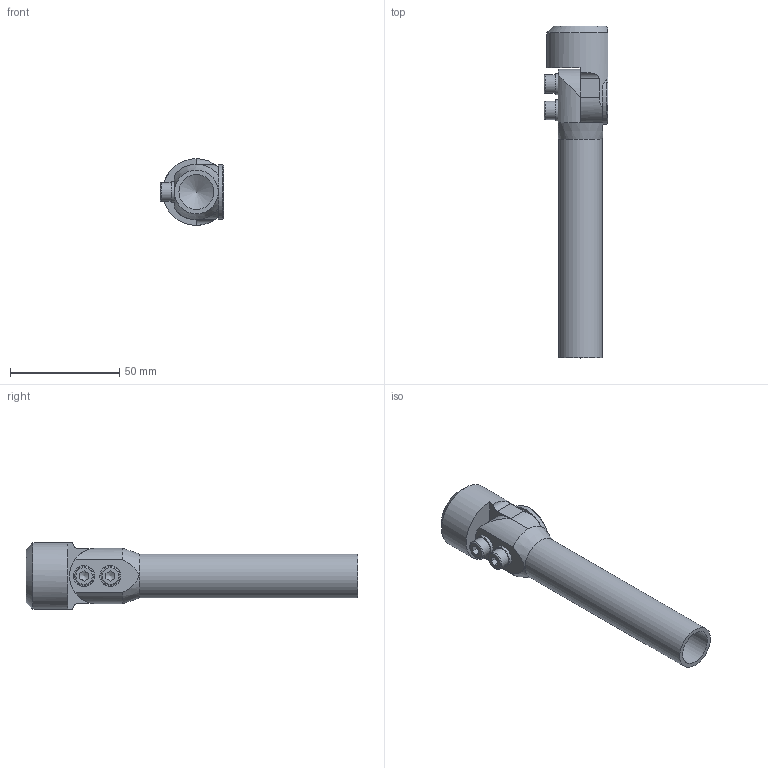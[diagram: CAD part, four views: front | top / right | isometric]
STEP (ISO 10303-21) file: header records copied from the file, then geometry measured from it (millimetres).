
FILE_DESCRIPTION(/* description */ ('Elbow Vacuum Cup Gripper Arm'),/* implementation_level */ '2;1');
FILE_NAME(/* name */ 'EVGA-20-18-18-100.STEP',/* time_stamp */ '2026-02-10T14:29:02-05:00',/* author */ ('Design2'),/* organization */ ('CCS Design LLC'),/* preprocessor_version */ 'ST-DEVELOPER v20',/* originating_system */ 'Autodesk Inventor 2025',/* authorisation */ '');
FILE_SCHEMA (('AUTOMOTIVE_DESIGN { 1 0 10303 214 3 1 1 }'));
Length unit declared in the file: inch
Products named in the file (6): EVGA-20-18-18-100; M-EGA-20-100-S; M-EGA-20-I; M-EVGA-18-18-H; ANSI B18.3.1M - M5x0.8 x 20; ANSI B18.21.1 - 0.216
Assembly tree (7 placements, depth 2):
  EVGA-20-18-18-100
    M-EGA-20-100-S
    M-EGA-20-I
    M-EVGA-18-18-H
    ANSI B18.3.1M - M5x0.8 x 20  x2
    ANSI B18.21.1 - 0.216  x2
Bounding box: 29.12 x 151.85 x 30.48 mm (x, y, z)
Volume: 38435.4 mm3; surface area: 23713.6 mm2
Topology: 7 solids, 7 shells, 92 faces, 216 edges, 141 vertices
Faces by surface type: plane 43, cylinder 30, cone 15, torus 4
Full cylindrical faces by diameter (mm): 4.14 x2, 5 x2, 5.512 x2, 8.5 x2, 8.56 x2, 16 x1, 20 x4, 25 x1
Entity records: 2446 total; most frequent: CARTESIAN_POINT 533, DIRECTION 383, ORIENTED_EDGE 330, EDGE_CURVE 165, AXIS2_PLACEMENT_3D 159, VERTEX_POINT 109, EDGE_LOOP 88, FACE_OUTER_BOUND 71
